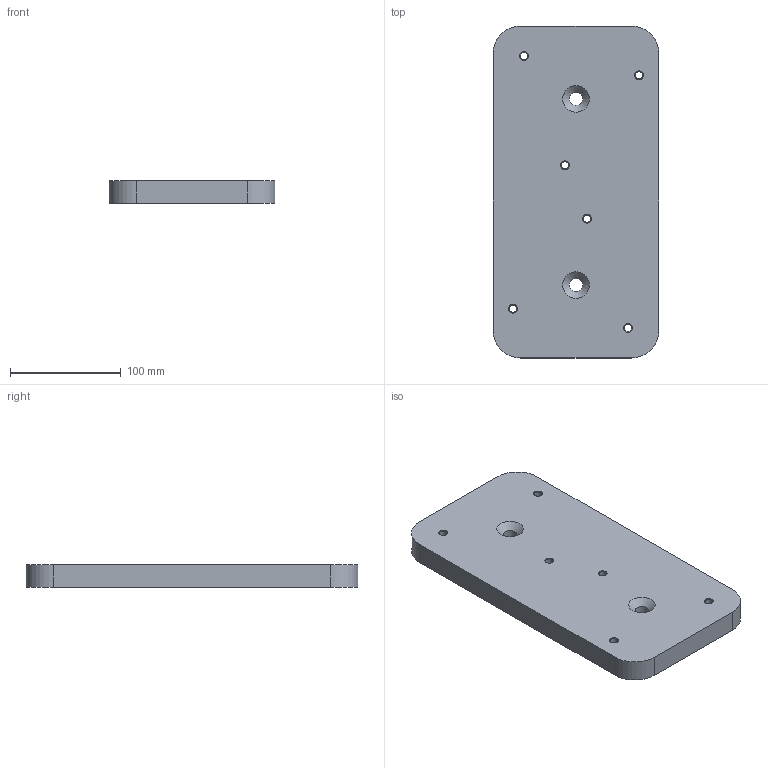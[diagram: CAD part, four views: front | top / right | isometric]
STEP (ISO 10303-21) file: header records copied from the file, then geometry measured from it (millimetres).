
FILE_DESCRIPTION(/* description */ (''),/* implementation_level */ '2;1');
FILE_NAME(/* name */ '2020TOMO-PAV-Piastra_doppia_v5.stp',/* time_stamp */ '2022-05-16T13:59:29+02:00',/* author */ (''),/* organization */ (''),/* preprocessor_version */ 'ST-DEVELOPER v18.102',/* originating_system */ 'SIEMENS PLM Software NX 2000',/* authorisation */ '');
FILE_SCHEMA (('AUTOMOTIVE_DESIGN { 1 0 10303 214 3 1 1 1 }'));
Length unit declared in the file: millimetre
Products named in the file (1): turc3144724Fyyi3
Bounding box: 150 x 300 x 20 mm (x, y, z)
Volume: 878502 mm3; surface area: 108975.7 mm2
Topology: 1 solids, 1 shells, 31 faces, 92 edges, 63 vertices
Faces by surface type: cone 13, cylinder 12, plane 6
Full cylindrical faces by diameter (mm): 6.8 x6, 12 x2
Entity records: 971 total; most frequent: DIRECTION 178, CARTESIAN_POINT 142, ORIENTED_EDGE 106, AXIS2_PLACEMENT_3D 81, EDGE_LOOP 68, FACE_BOUND 60, EDGE_CURVE 53, CIRCLE 49
